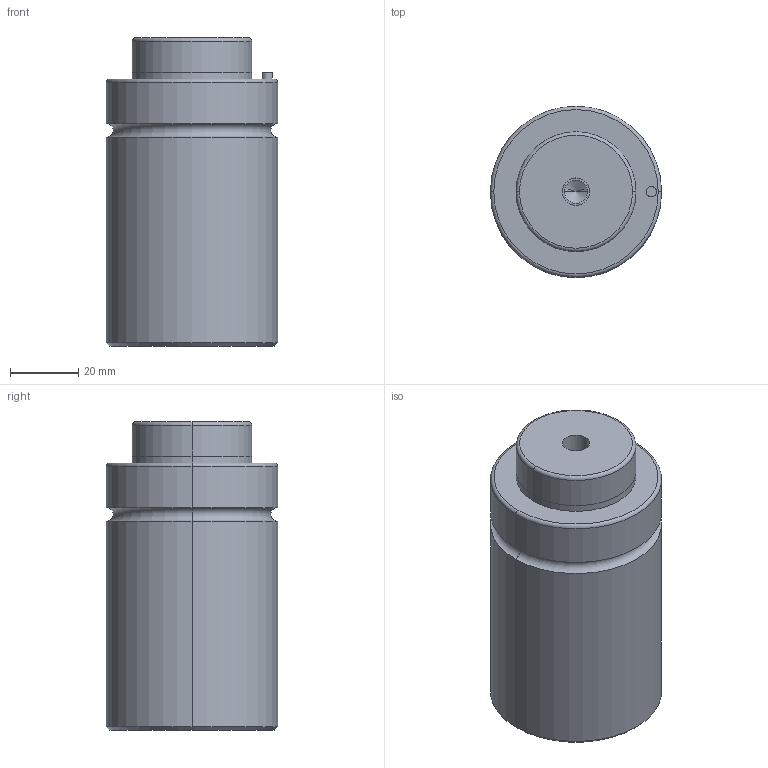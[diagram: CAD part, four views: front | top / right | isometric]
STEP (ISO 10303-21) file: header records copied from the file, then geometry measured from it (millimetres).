
FILE_DESCRIPTION(/* description */ (''),/* implementation_level */ '2;1');
FILE_NAME(/* name */ '3d_gsm50-10_03904_r00.stp',/* time_stamp */ '2011-01-10T14:15:15+09:00',/* author */ ('MISUMI'),/* organization */ (''),/* preprocessor_version */ 'ST-DEVELOPER v11',/* originating_system */ 'UGS - NX 5.0',/* authorisation */ '');
FILE_SCHEMA (('CONFIG_CONTROL_DESIGN'));
Length unit declared in the file: millimetre
Products named in the file (1): 3d_gsm50-10_03904_r00
Bounding box: 50 x 50 x 90 mm (x, y, z)
Volume: 160752.3 mm3; surface area: 19060.1 mm2
Topology: 1 solids, 1 shells, 50 faces, 106 edges, 60 vertices
Faces by surface type: cylinder 26, cone 10, plane 8, torus 6
Entity records: 1382 total; most frequent: DIRECTION 262, CARTESIAN_POINT 209, ORIENTED_EDGE 196, AXIS2_PLACEMENT_3D 113, EDGE_CURVE 98, CIRCLE 62, EDGE_LOOP 60, VERTEX_POINT 60
